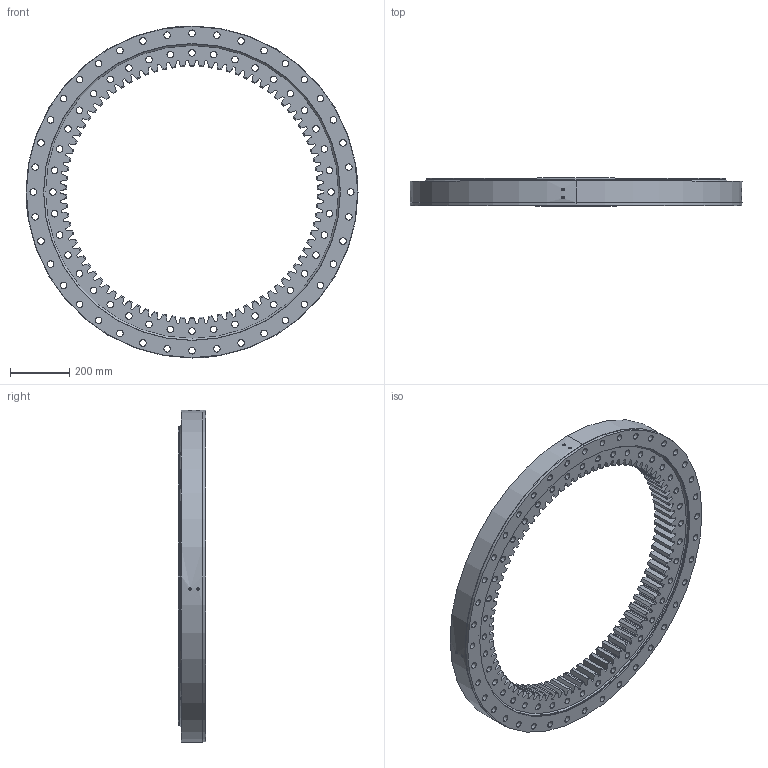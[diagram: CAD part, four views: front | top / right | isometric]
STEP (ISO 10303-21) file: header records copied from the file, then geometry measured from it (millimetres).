
FILE_DESCRIPTION (( 'STEP AP214' ), '1' );
FILE_NAME ('B2220-1-1124AA.STEP', '2022-11-24T07:29:45', ( '' ), ( '' ), 'SwSTEP 2.0', 'SolidWorks 2020', '' );
FILE_SCHEMA (( 'AUTOMOTIVE_DESIGN' ));
Length unit declared in the file: millimetre
Products named in the file (1): B2220-1-1124AA
Bounding box: 1124 x 93 x 1124 mm (x, y, z)
Volume: 30635466.3 mm3; surface area: 2780267.8 mm2
Topology: 4 solids, 4 shells, 853 faces, 2484 edges, 1653 vertices
Faces by surface type: plane 366, cylinder 303, cone 184
Entity records: 30076 total; most frequent: CARTESIAN_POINT 7407, ORIENTED_EDGE 4968, DIRECTION 4405, EDGE_CURVE 2484, VERTEX_POINT 1653, AXIS2_PLACEMENT_3D 1615, VECTOR 1175, LINE 1175
